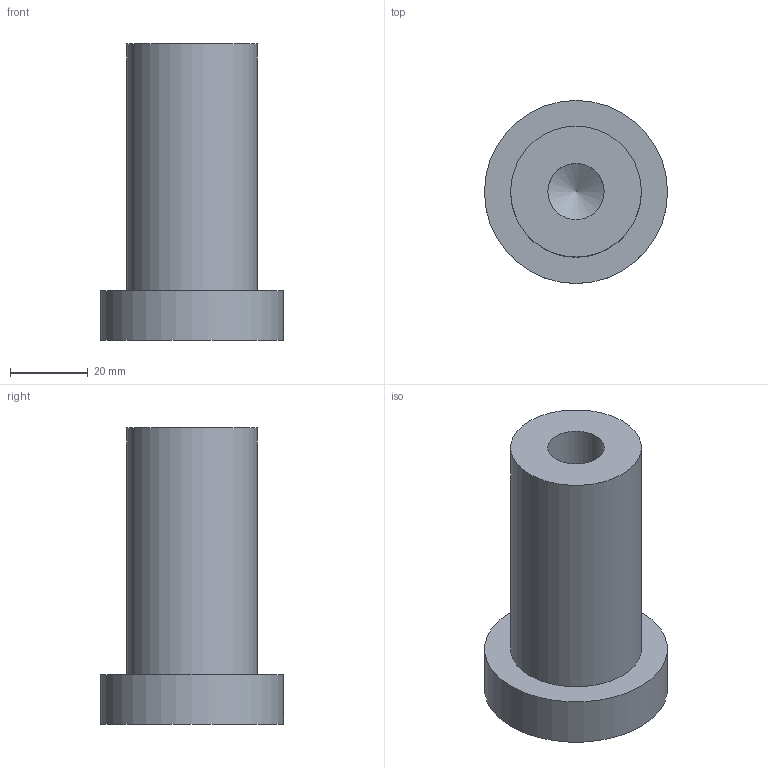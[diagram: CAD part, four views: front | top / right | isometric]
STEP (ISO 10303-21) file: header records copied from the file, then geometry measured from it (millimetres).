
FILE_DESCRIPTION(/* description */ (''),/* implementation_level */ '2;1');
FILE_NAME(/* name */ 'C:/Users/donbe/OneDrive/Documents/Cars/GMC Motorhome/tom-warner-bearing-puller/ActualBearingPullerScewAttachment v2.step',/* time_stamp */ '2021-08-12T17:58:36-04:00',/* author */ (''),/* organization */ (''),/* preprocessor_version */ 'ST-DEVELOPER v18.1',/* originating_system */ 'Autodesk Translation Framework v10.9.0.1377',/* authorisation */ '');
FILE_SCHEMA (('AUTOMOTIVE_DESIGN { 1 0 10303 214 3 1 1 }'));
Length unit declared in the file: inch
Products named in the file (1): ActualBearingPullerScewAttachment
Bounding box: 47.12 x 47.12 x 76.2 mm (x, y, z)
Volume: 72086.5 mm3; surface area: 13846 mm2
Topology: 1 solids, 1 shells, 7 faces, 11 edges, 7 vertices
Faces by surface type: cylinder 3, plane 3, cone 1
Full cylindrical faces by diameter (mm): 14.516 x1, 33.655 x1, 47.117 x1
Entity records: 193 total; most frequent: DIRECTION 32, CARTESIAN_POINT 25, ORIENTED_EDGE 20, AXIS2_PLACEMENT_3D 14, EDGE_CURVE 10, EDGE_LOOP 9, FACE_OUTER_BOUND 7, VERTEX_POINT 7
